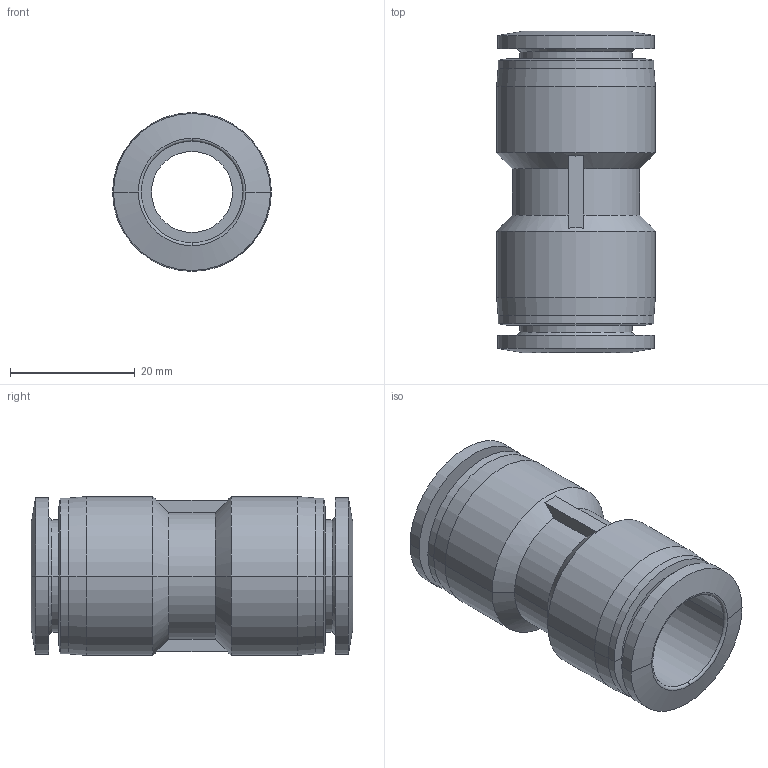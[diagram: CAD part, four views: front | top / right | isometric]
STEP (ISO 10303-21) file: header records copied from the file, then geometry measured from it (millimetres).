
FILE_DESCRIPTION (( 'STEP AP203' ), '1' );
FILE_NAME ('FH16-00.STEP', '2020-05-13T10:58:48', ( '' ), ( '' ), 'SwSTEP 2.0', 'SolidWorks 2019', '' );
FILE_SCHEMA (( 'CONFIG_CONTROL_DESIGN' ));
Length unit declared in the file: millimetre
Products named in the file (1): FH16-00
Bounding box: 25.5 x 51.6 x 25.5 mm (x, y, z)
Volume: 12847.2 mm3; surface area: 8216.1 mm2
Topology: 1 solids, 1 shells, 61 faces, 139 edges, 84 vertices
Faces by surface type: cylinder 25, cone 20, plane 12, torus 4
Entity records: 1790 total; most frequent: DIRECTION 327, CARTESIAN_POINT 309, ORIENTED_EDGE 278, EDGE_CURVE 139, AXIS2_PLACEMENT_3D 138, VERTEX_POINT 84, CIRCLE 76, EDGE_LOOP 67
